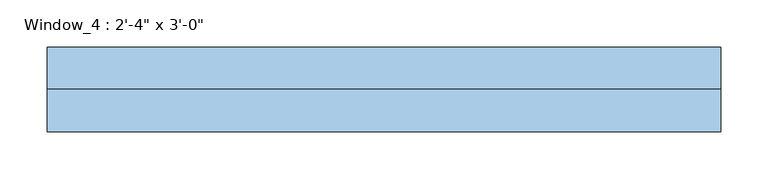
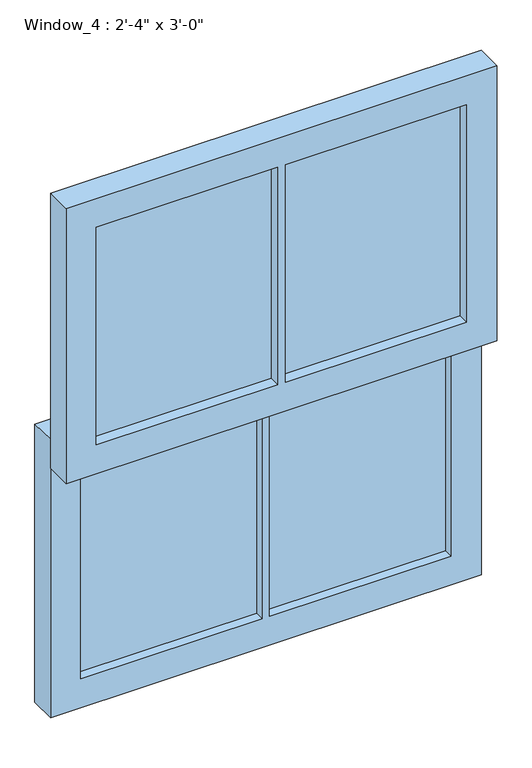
"""IFC4 building model written with IfcOpenShell, lengths in millimetres: window geometry."""

from ifc_helpers import new_model, si_unit, frame, origin, place, context, project, spatial, polyline, outline, extrude, source, transform, mapped, element, save


def window_f0850236(model_context):
    return source(origin(), model_context, "Body", "SweptSolid", [
        extrude(outline(polyline([(-6.35, -57.15), (-6.35, -64.0853592), (-305.6, -64.0853592), (-305.6, -57.15), (-6.35, -57.15)])), frame((0.0, 0.0, 1323.175), z_axis=(0.0, 0.0, 1.0), x_axis=(1.0, 0.0, 0.0)), (0.0, 0.0, 1.0), 379.425),
        extrude(outline(polyline([(305.6, -57.15), (305.6, -64.0853592), (6.35, -64.0853592), (6.35, -57.15), (305.6, -57.15)])), frame((0.0, 0.0, 1323.175), z_axis=(0.0, 0.0, 1.0), x_axis=(1.0, 0.0, 0.0)), (0.0, 0.0, 1.0), 379.425),
        extrude(outline(polyline([(1752.6, -355.6), (1273.175, -355.6), (1273.175, 355.6), (1752.6, 355.6), (1752.6, -355.6)]), holes=[polyline([(1702.6, 6.35), (1702.6, 305.6), (1323.175, 305.6), (1323.175, 6.35), (1702.6, 6.35)]), polyline([(1323.175, -305.6), (1702.6, -305.6), (1702.6, -6.35), (1323.175, -6.35), (1323.175, -305.6)])]), frame((0.0, -82.55, 0.0), z_axis=(0.0, 1.0, 0.0), x_axis=(0.0, 0.0, 1.0)), (0.0, 0.0, 1.0), 44.45),
        extrude(outline(polyline([(6.35, -22.225), (6.35, -9.525), (305.6, -9.525), (305.6, -22.225), (6.35, -22.225)])), frame((0.0, 0.0, 888.2), z_axis=(0.0, 0.0, 1.0), x_axis=(1.0, 0.0, 0.0)), (0.0, 0.0, 1.0), 384.975),
        extrude(outline(polyline([(-305.6, -22.225), (-305.6, -9.525), (-6.35, -9.525), (-6.35, -22.225), (-305.6, -22.225)])), frame((0.0, 0.0, 888.2), z_axis=(0.0, 0.0, 1.0), x_axis=(1.0, 0.0, 0.0)), (0.0, 0.0, 1.0), 384.975),
        extrude(outline(polyline([(1323.175, -355.6), (838.2, -355.6), (838.2, 355.6), (1323.175, 355.6), (1323.175, -355.6)]), holes=[polyline([(888.2, -305.6), (1273.175, -305.6), (1273.175, -6.35), (888.2, -6.35), (888.2, -305.6)]), polyline([(1273.175, 6.35), (1273.175, 305.6), (888.2, 305.6), (888.2, 6.35), (1273.175, 6.35)])]), frame((0.0, -38.1, 0.0), z_axis=(0.0, 1.0, 0.0), x_axis=(0.0, 0.0, 1.0)), (0.0, 0.0, 1.0), 44.45),
    ])


if __name__ == "__main__":
    model = new_model("IFC4")
    model_context = context("Model", 3, world=origin())
    ifc_project = project(units=[si_unit("LENGTHUNIT", "METRE", prefix="MILLI")], contexts=[model_context])
    site = spatial("IfcSite", under=ifc_project)
    building = spatial("IfcBuilding", under=site)
    placement = place(None, origin())
    window_shape = window_f0850236(model_context)
    element("IfcWindow", 1, ObjectType="Window_4 : 2'-4\" x 3'-0\"", at=placement, inside=building, context=model_context, shape_type="MappedRepresentation", body=[
        mapped(window_shape, transform((0.0, 0.0, 0.0), x_axis=(1.0, 0.0, 0.0), y_axis=(0.0, 1.0, 0.0), z_axis=(0.0, 0.0, 1.0))),
    ])
    save(model, "model.ifc")
